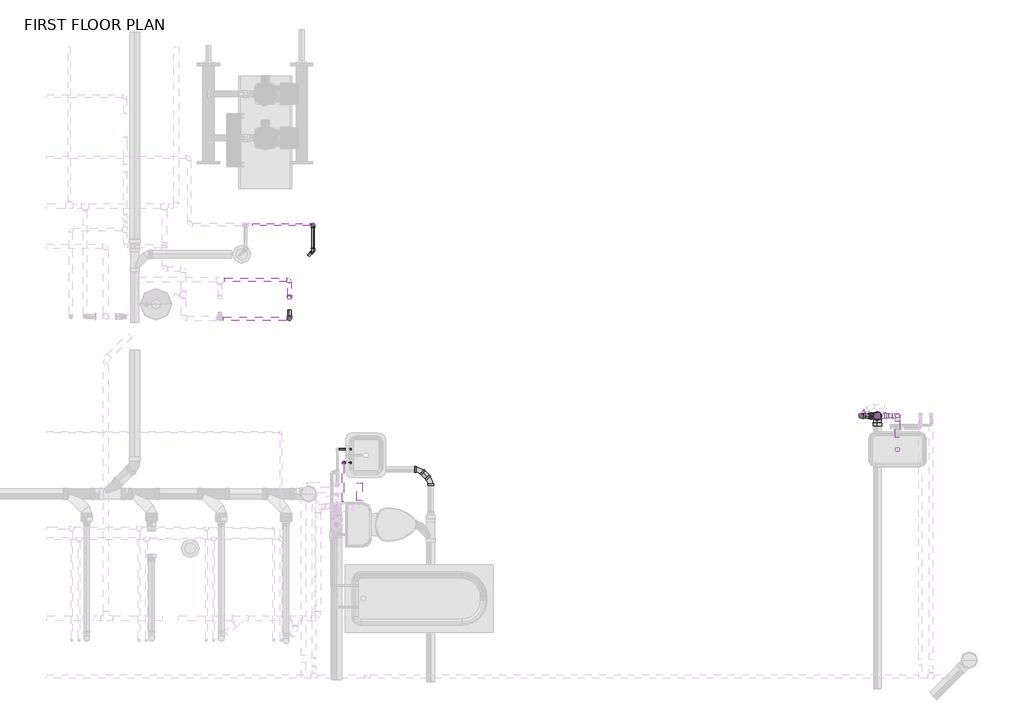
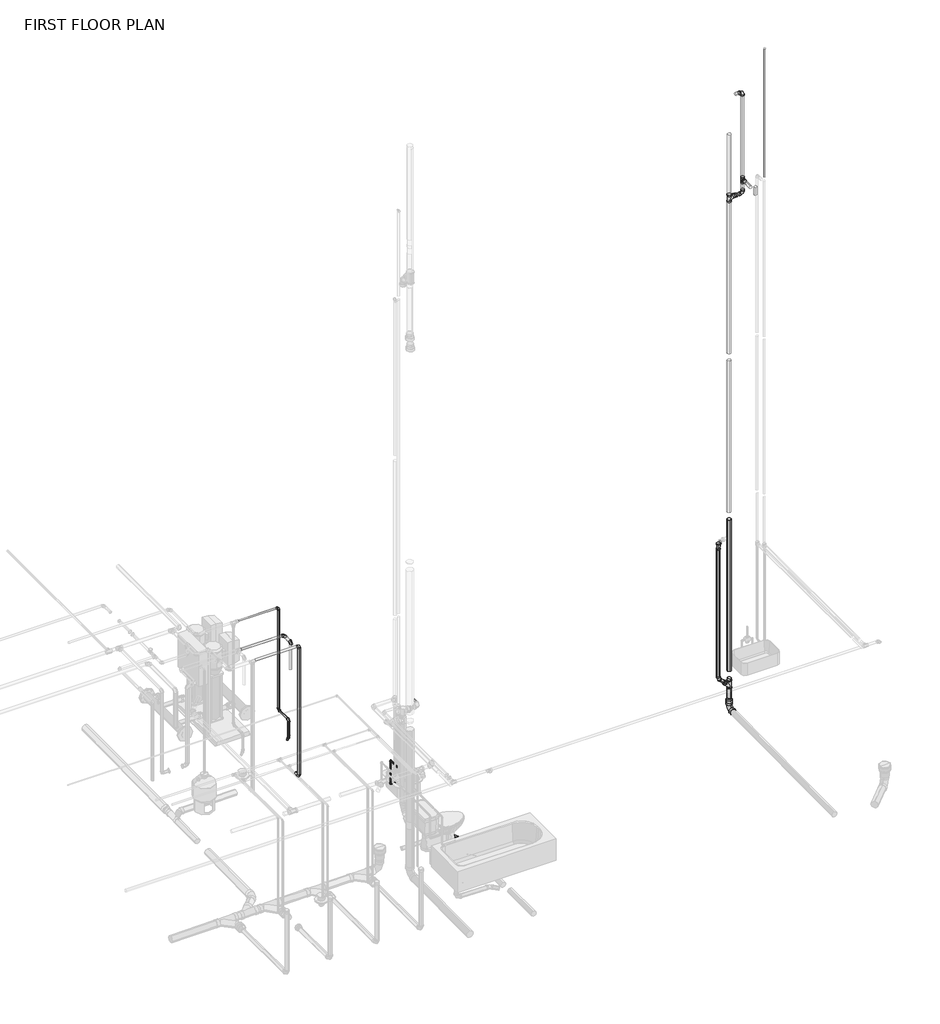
# One storey, part 28 of 29: 33 pipe segments, 23 pipe fittings.
"""IFC4 building model written with IfcOpenShell, lengths in millimetres."""

from ifc_helpers import new_model, si_unit, point, frame, frame_2d, origin, place, context, project, spatial, circle_curve, trimmed, segment, composite_curve, outline, extrude, transform, mapped, element, save
from components import bend_pvc_sch_40_dwv_standard_2a70e4cc, bend_pvc_sch_40_dwv_standard_738aab8b, bend_pvc_sch_40_dwv_standard_0fc7ae8a, bend_pvc_sch_40_dwv_standard_cc806abd, bend_pvc_sch_40_dwv_standard_9d8d5a04, elbow_threaded_mi_class_150_standard_46a92b09, ges_wye_45_deg_threaded_mi_class_150_cast_iron_sanitary_d237d51e, pipe_elbow_copper_k_ef41bb3a, pipe_elbow_copper_k_557be1fc, pipe_elbow_copper_k_aad62f2d, reducer_pvc_sch_40_dwv_standard_f288b410, reducer_pvc_sch_40_dwv_standard_44865e00, reducer_pvc_sch_40_dwv_standard_88dc3458, tee_sanitary_pvc_sch_40_dwv_standard_ad422280, tee_sanitary_pvc_sch_40_dwv_standard_7b7ecc20, tee_sanitary_pvc_sch_40_dwv_standard_be04015c

model = new_model("IFC4")

# Units and contexts
model_context = context("Model", 3, world=origin())
ifc_project = project(units=[si_unit("LENGTHUNIT", "METRE", prefix="MILLI")], contexts=[model_context])

# Site, building, storey
site = spatial("IfcSite", under=ifc_project)
building = spatial("IfcBuilding", under=site)
storey = spatial("IfcBuildingStorey", under=building, Name="FIRST FLOOR PLAN", Elevation=0.0)

# Pipe fittings
placement = place(None, origin())
bend_pvc_sch_40_dwv_standard_shape = bend_pvc_sch_40_dwv_standard_2a70e4cc(model_context)
element("IfcPipeFitting", 1, ObjectType="Bend - PVC - Sch 40 - DWV : Standard", at=placement, inside=storey, context=model_context, shape_type="MappedRepresentation", body=[
    mapped(bend_pvc_sch_40_dwv_standard_shape, transform((23062.4937673, 8911.2635001, -285.4857052), x_axis=(0.0, 0.0, -1.0), y_axis=(0.0, -1.0, 0.0), z_axis=(-1.0, 0.0, 0.0))),
])
bend_pvc_sch_40_dwv_standard_2_shape = bend_pvc_sch_40_dwv_standard_738aab8b(model_context)
element("IfcPipeFitting", 2, ObjectType="Bend - PVC - Sch 40 - DWV : Standard", at=placement, inside=storey, context=model_context, shape_type="MappedRepresentation", body=[
    mapped(bend_pvc_sch_40_dwv_standard_2_shape, transform((23291.1209875, 8911.9290686, 8870.855157), x_axis=(0.0, 0.0, -1.0), y_axis=(-1.0, 0.0, 0.0), z_axis=(0.0, 1.0, 0.0))),
])
element("IfcPipeFitting", 3, ObjectType="Bend - PVC - Sch 40 - DWV : Standard", at=placement, inside=storey, context=model_context, shape_type="MappedRepresentation", body=[
    mapped(bend_pvc_sch_40_dwv_standard_2_shape, transform((23291.1209875, 8911.9290686, 10682.6112003), x_axis=(0.0, 0.0, 1.0), y_axis=(-0.9999400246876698, -0.010952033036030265, 0.0), z_axis=(0.010952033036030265, -0.9999400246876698, 0.0))),
])
bend_pvc_sch_40_dwv_standard_3_shape = bend_pvc_sch_40_dwv_standard_0fc7ae8a(model_context)
element("IfcPipeFitting", 4, ObjectType="Bend - PVC - Sch 40 - DWV : Standard", at=placement, inside=storey, context=model_context, shape_type="MappedRepresentation", body=[
    mapped(bend_pvc_sch_40_dwv_standard_3_shape, transform((22877.6637012, 8912.1079616, 306.9969307), x_axis=(0.0, 0.0, -1.0), y_axis=(0.9999896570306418, -0.004548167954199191, 0.0), z_axis=(-0.004548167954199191, -0.9999896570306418, 0.0))),
])
bend_pvc_sch_40_dwv_standard_4_shape = bend_pvc_sch_40_dwv_standard_cc806abd(model_context)
element("IfcPipeFitting", 5, ObjectType="Bend - PVC - Sch 40 - DWV : Standard", at=placement, inside=storey, context=model_context, shape_type="MappedRepresentation", body=[
    mapped(bend_pvc_sch_40_dwv_standard_4_shape, transform((17876.7857687, 8305.5591934, -375.7177711), x_axis=(-0.7070684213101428, 0.7070684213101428, 0.010416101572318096), y_axis=(-0.7070681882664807, -0.7071320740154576, 0.004336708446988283), z_axis=(0.01043190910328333, -0.0042985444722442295, 0.99993634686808))),
])
bend_pvc_sch_40_dwv_standard_5_shape = bend_pvc_sch_40_dwv_standard_9d8d5a04(model_context)
element("IfcPipeFitting", 6, ObjectType="Bend - PVC - Sch 40 - DWV : Standard", at=placement, inside=storey, context=model_context, shape_type="MappedRepresentation", body=[
    mapped(bend_pvc_sch_40_dwv_standard_5_shape, transform((18002.873524, 8179.4714381, -377.5752192), x_axis=(0.0, 0.9999457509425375, 0.010416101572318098), y_axis=(-0.9999906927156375, -4.493975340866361e-05, 0.004314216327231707), z_axis=(0.004314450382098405, -0.010416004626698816, 0.9999364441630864))),
])
elbow_threaded_mi_class_150_standard_shape = elbow_threaded_mi_class_150_standard_46a92b09(model_context)
element("IfcPipeFitting", 7, ObjectType="Elbow - Threaded - MI - Class 150 : Standard", at=placement, inside=storey, context=model_context, shape_type="MappedRepresentation", body=[
    mapped(elbow_threaded_mi_class_150_standard_shape, transform((16670.1061918, 11079.5921575, 2438.4), x_axis=(1.0, 0.0, 0.0), y_axis=(0.0, 0.0, -1.0), z_axis=(0.0, 1.0, 0.0))),
])
element("IfcPipeFitting", 8, ObjectType="Elbow - Threaded - MI - Class 150 : Standard", at=placement, inside=storey, context=model_context, shape_type="MappedRepresentation", body=[
    mapped(elbow_threaded_mi_class_150_standard_shape, transform((16670.1061918, 11079.5921575, 609.6), x_axis=(0.0, 0.0, -1.0), y_axis=(0.0, -1.0, 0.0), z_axis=(-1.0, 0.0, 0.0))),
])
element("IfcPipeFitting", 9, ObjectType="Elbow - Threaded - MI - Class 150 : Standard", at=placement, inside=storey, context=model_context, shape_type="MappedRepresentation", body=[
    mapped(elbow_threaded_mi_class_150_standard_shape, transform((16670.1061918, 10781.1421575, 609.6), x_axis=(0.0, -1.0, 0.0), y_axis=(0.0, 0.0, -1.0), z_axis=(1.0, 0.0, 0.0))),
])
element("IfcPipeFitting", 10, ObjectType="Elbow - Threaded - MI - Class 150 : Standard", at=placement, inside=storey, context=model_context, shape_type="MappedRepresentation", body=[
    mapped(elbow_threaded_mi_class_150_standard_shape, transform((16670.1061918, 10781.1421575, 304.8), x_axis=(0.0, 0.0, -1.0), y_axis=(-0.7071067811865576, -0.7071067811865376, 0.0), z_axis=(-0.7071067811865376, 0.7071067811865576, 0.0))),
])
ges_wye_45_deg_threaded_mi_class_150_cast_iron_sanitary_shape = ges_wye_45_deg_threaded_mi_class_150_cast_iron_sanitary_d237d51e(model_context)
element("IfcPipeFitting", 11, ObjectType="GES Wye 45 Deg - Threaded - MI - Class 150 : Cast Iron- Sanitary", at=placement, inside=storey, context=model_context, shape_type="MappedRepresentation", body=[
    mapped(ges_wye_45_deg_threaded_mi_class_150_cast_iron_sanitary_shape, transform((23062.5209875, 8911.2671909, 122.1428758), x_axis=(0.0, 0.0, 1.0), y_axis=(0.9999896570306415, -0.004548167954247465, 0.0), z_axis=(0.004548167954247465, 0.9999896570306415, 0.0))),
])
pipe_elbow_copper_k_shape = pipe_elbow_copper_k_ef41bb3a(model_context)
element("IfcPipeFitting", 12, ObjectType="Pipe Elbow : Copper- K", at=placement, inside=storey, context=model_context, shape_type="MappedRepresentation", body=[
    mapped(pipe_elbow_copper_k_shape, transform((16402.2481736, 10252.0984616, 2414.7888358), x_axis=(0.0, 0.0, 1.0), y_axis=(0.0, 1.0, 0.0), z_axis=(-1.0, 0.0, 0.0))),
])
pipe_elbow_copper_k_2_shape = pipe_elbow_copper_k_557be1fc(model_context)
element("IfcPipeFitting", 13, ObjectType="Pipe Elbow : Copper- K", at=placement, inside=storey, context=model_context, shape_type="MappedRepresentation", body=[
    mapped(pipe_elbow_copper_k_2_shape, transform((16402.2481736, 10014.0854758, 160.02), x_axis=(0.0, 0.0, -1.0), y_axis=(0.0, 1.0, 0.0), z_axis=(1.0, 0.0, 0.0))),
])
element("IfcPipeFitting", 14, ObjectType="Pipe Elbow : Copper- K", at=placement, inside=storey, context=model_context, shape_type="MappedRepresentation", body=[
    mapped(pipe_elbow_copper_k_2_shape, transform((16402.2481736, 10014.086218, 2490.7000626), x_axis=(0.0, 0.0, 1.0), y_axis=(-1.0, 0.0, 0.0), z_axis=(0.0, -1.0, 0.0))),
])
element("IfcPipeFitting", 15, ObjectType="Pipe Elbow : Copper- K", at=placement, inside=storey, context=model_context, shape_type="MappedRepresentation", body=[
    mapped(pipe_elbow_copper_k_2_shape, transform((16402.2481736, 10455.3394457, 2413.0), x_axis=(0.0, 0.9999998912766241, 0.0004663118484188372), y_axis=(-1.0, 0.0, 0.0), z_axis=(0.0, -0.0004663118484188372, 0.9999998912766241))),
])
pipe_elbow_copper_k_3_shape = pipe_elbow_copper_k_aad62f2d(model_context)
element("IfcPipeFitting", 16, ObjectType="Pipe Elbow : Copper- K", at=placement, inside=storey, context=model_context, shape_type="MappedRepresentation", body=[
    mapped(pipe_elbow_copper_k_3_shape, transform((17010.9709875, 8383.3740436, 792.4601563), x_axis=(-1.0, 0.0, 0.0), y_axis=(0.0, 0.0, 1.0), z_axis=(0.0, 1.0, 0.0))),
])
element("IfcPipeFitting", 17, ObjectType="Pipe Elbow : Copper- K", at=placement, inside=storey, context=model_context, shape_type="MappedRepresentation", body=[
    mapped(pipe_elbow_copper_k_3_shape, transform((17010.9709875, 8383.3740436, 1219.2), x_axis=(0.0, 0.0, 1.0), y_axis=(0.0, -1.0, 0.0), z_axis=(1.0, 0.0, 0.0))),
])
reducer_pvc_sch_40_dwv_standard_shape = reducer_pvc_sch_40_dwv_standard_f288b410(model_context)
element("IfcPipeFitting", 18, ObjectType="Reducer - PVC - Sch 40 - DWV : Standard", at=placement, inside=storey, context=model_context, shape_type="MappedRepresentation", body=[
    mapped(reducer_pvc_sch_40_dwv_standard_shape, transform((22990.6833827, 8911.5939238, 193.9792248), x_axis=(-0.7071093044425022, 0.0032160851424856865, 0.7070969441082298), y_axis=(-0.004548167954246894, -0.9999896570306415, 0.0), z_axis=(0.7070896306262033, -0.003215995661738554, 0.7071166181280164))),
])
reducer_pvc_sch_40_dwv_standard_2_shape = reducer_pvc_sch_40_dwv_standard_44865e00(model_context)
element("IfcPipeFitting", 19, ObjectType="Reducer - PVC - Sch 40 - DWV : Standard", at=placement, inside=storey, context=model_context, shape_type="MappedRepresentation", body=[
    mapped(reducer_pvc_sch_40_dwv_standard_2_shape, transform((23062.4937673, 8911.2635001, -90.2105052), x_axis=(0.0, 0.0, -1.0), y_axis=(-0.004548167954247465, -0.9999896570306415, 0.0), z_axis=(-0.9999896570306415, 0.004548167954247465, 0.0))),
])
reducer_pvc_sch_40_dwv_standard_3_shape = reducer_pvc_sch_40_dwv_standard_88dc3458(model_context)
element("IfcPipeFitting", 20, ObjectType="Reducer - PVC - Sch 40 - DWV : Standard", at=placement, inside=storey, context=model_context, shape_type="MappedRepresentation", body=[
    mapped(reducer_pvc_sch_40_dwv_standard_3_shape, transform((23140.3099395, 8912.5900872, 8870.855157), x_axis=(0.999855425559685, 0.017003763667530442, 0.0), y_axis=(-0.017003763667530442, 0.999855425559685, 0.0), z_axis=(0.0, 0.0, 1.0))),
])
tee_sanitary_pvc_sch_40_dwv_standard_shape = tee_sanitary_pvc_sch_40_dwv_standard_ad422280(model_context)
element("IfcPipeFitting", 21, ObjectType="Tee Sanitary - PVC - Sch 40 - DWV : Standard", at=placement, inside=storey, context=model_context, shape_type="MappedRepresentation", body=[
    mapped(tee_sanitary_pvc_sch_40_dwv_standard_shape, transform((23291.1209875, 8911.9290686, 9112.4170389), x_axis=(0.0, 0.0, 1.0), y_axis=(0.0, 1.0, 0.0), z_axis=(-1.0, 0.0, 0.0))),
])
tee_sanitary_pvc_sch_40_dwv_standard_2_shape = tee_sanitary_pvc_sch_40_dwv_standard_7b7ecc20(model_context)
element("IfcPipeFitting", 22, ObjectType="Tee Sanitary - PVC - Sch 40 - DWV : Standard", at=placement, inside=storey, context=model_context, shape_type="MappedRepresentation", body=[
    mapped(tee_sanitary_pvc_sch_40_dwv_standard_2_shape, transform((23062.5209875, 8911.2671909, 8870.855157), x_axis=(0.0, 0.0, 1.0), y_axis=(-0.999855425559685, -0.017003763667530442, 0.0), z_axis=(0.017003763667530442, -0.999855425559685, 0.0))),
])
tee_sanitary_pvc_sch_40_dwv_standard_3_shape = tee_sanitary_pvc_sch_40_dwv_standard_be04015c(model_context)
element("IfcPipeFitting", 23, ObjectType="Tee Sanitary - PVC - Sch 40 - DWV : Standard", at=placement, inside=storey, context=model_context, shape_type="MappedRepresentation", body=[
    mapped(tee_sanitary_pvc_sch_40_dwv_standard_3_shape, transform((22877.6637012, 8912.1079616, 2687.3998234), x_axis=(0.0, 0.0, 1.0), y_axis=(-0.7098586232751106, -0.7043441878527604, 0.0), z_axis=(0.7043441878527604, -0.7098586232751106, 0.0))),
])

# Pipe segments
element("IfcPipeSegment", 24, ObjectType="Black Iron - GAS", at=placement, inside=storey, context=model_context, shape_type="SweptSolid", body=[
    extrude(outline(composite_curve([segment(trimmed(circle_curve(frame_2d((11079.5921575, 2438.4)), 13.335), [point((11066.2571575, 2438.4))], [point((11079.5921575, 2451.735))], False, "CARTESIAN"), True, "CONTINUOUS"), segment(trimmed(circle_curve(frame_2d((11079.5921575, 2438.4)), 13.335), [point((11079.5921575, 2451.735))], [point((11092.9271575, 2438.4))], False, "CARTESIAN"), True, "CONTINUOUS"), segment(trimmed(circle_curve(frame_2d((11079.5921575, 2438.4)), 13.335), [point((11092.9271575, 2438.4))], [point((11079.5921575, 2425.065))], False, "CARTESIAN"), True, "CONTINUOUS"), segment(trimmed(circle_curve(frame_2d((11079.5921575, 2438.4)), 13.335), [point((11079.5921575, 2425.065))], [point((11066.2571575, 2438.4))], False, "CARTESIAN"), True, "CONTINUOUS")], self_intersect=False)), frame((15985.1804028, 0.0, 0.0), z_axis=(1.0, 0.0, 0.0), x_axis=(0.0, 1.0, 0.0)), (0.0, 0.0, 1.0), 651.625789),
])
element("IfcPipeSegment", 25, ObjectType="Black Iron - GAS", at=placement, inside=storey, context=model_context, shape_type="SweptSolid", body=[
    extrude(outline(composite_curve([segment(trimmed(circle_curve(frame_2d((609.6, 16670.1061918)), 13.335), [point((609.6, 16656.7711918))], [point((596.265, 16670.1061918))], False, "CARTESIAN"), True, "CONTINUOUS"), segment(trimmed(circle_curve(frame_2d((609.6, 16670.1061918)), 13.335), [point((596.265, 16670.1061918))], [point((609.6, 16683.4411918))], False, "CARTESIAN"), True, "CONTINUOUS"), segment(trimmed(circle_curve(frame_2d((609.6, 16670.1061918)), 13.335), [point((609.6, 16683.4411918))], [point((622.935, 16670.1061918))], False, "CARTESIAN"), True, "CONTINUOUS"), segment(trimmed(circle_curve(frame_2d((609.6, 16670.1061918)), 13.335), [point((622.935, 16670.1061918))], [point((609.6, 16656.7711918))], False, "CARTESIAN"), True, "CONTINUOUS")], self_intersect=False)), frame((0.0, 10814.4421575, 0.0), z_axis=(0.0, 1.0, 0.0), x_axis=(0.0, 0.0, 1.0)), (0.0, 0.0, 1.0), 231.85),
])
element("IfcPipeSegment", 26, ObjectType="Black Iron - GAS", at=placement, inside=storey, context=model_context, shape_type="SweptSolid", body=[
    extrude(outline(composite_curve([segment(trimmed(circle_curve(frame_2d((16670.1061918, 11079.5921575)), 13.335), [point((16683.4411918, 11079.5921575))], [point((16670.1061918, 11066.2571575))], False, "CARTESIAN"), True, "CONTINUOUS"), segment(trimmed(circle_curve(frame_2d((16670.1061918, 11079.5921575)), 13.335), [point((16670.1061918, 11066.2571575))], [point((16656.7711918, 11079.5921575))], False, "CARTESIAN"), True, "CONTINUOUS"), segment(trimmed(circle_curve(frame_2d((16670.1061918, 11079.5921575)), 13.335), [point((16656.7711918, 11079.5921575))], [point((16670.1061918, 11092.9271575))], False, "CARTESIAN"), True, "CONTINUOUS"), segment(trimmed(circle_curve(frame_2d((16670.1061918, 11079.5921575)), 13.335), [point((16670.1061918, 11092.9271575))], [point((16683.4411918, 11079.5921575))], False, "CARTESIAN"), True, "CONTINUOUS")], self_intersect=False)), frame((0.0, 0.0, 642.9), z_axis=(0.0, 0.0, 1.0), x_axis=(1.0, 0.0, 0.0)), (0.0, 0.0, 1.0), 1762.2),
])
element("IfcPipeSegment", 27, ObjectType="Black Iron - GAS", at=placement, inside=storey, context=model_context, shape_type="SweptSolid", body=[
    extrude(outline(composite_curve([segment(trimmed(circle_curve(frame_2d((0.0, -13.335)), 13.335), [point((-13.335, -13.335))], [point((0.0, 0.0))], False, "CARTESIAN"), True, "CONTINUOUS"), segment(trimmed(circle_curve(frame_2d((0.0, -13.335)), 13.335), [point((0.0, 0.0))], [point((13.335, -13.335))], False, "CARTESIAN"), True, "CONTINUOUS"), segment(trimmed(circle_curve(frame_2d((0.0, -13.335)), 13.335), [point((13.335, -13.335))], [point((0.0, -26.67))], False, "CARTESIAN"), True, "CONTINUOUS"), segment(trimmed(circle_curve(frame_2d((0.0, -13.335)), 13.335), [point((0.0, -26.67))], [point((-13.335, -13.335))], False, "CARTESIAN"), True, "CONTINUOUS")], self_intersect=False)), frame((16616.2246551, 10727.2606208, 291.465), z_axis=(0.7071067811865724, 0.7071067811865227, 0.0), x_axis=(0.7071067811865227, -0.7071067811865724, 0.0)), (0.0, 0.0, 1.0), 42.9),
])
element("IfcPipeSegment", 28, ObjectType="Black Iron - GAS", at=placement, inside=storey, context=model_context, shape_type="SweptSolid", body=[
    extrude(outline(composite_curve([segment(trimmed(circle_curve(frame_2d((16670.1061918, 10781.1421575)), 13.335), [point((16683.4411918, 10781.1421575))], [point((16670.1061918, 10767.8071575))], False, "CARTESIAN"), True, "CONTINUOUS"), segment(trimmed(circle_curve(frame_2d((16670.1061918, 10781.1421575)), 13.335), [point((16670.1061918, 10767.8071575))], [point((16656.7711918, 10781.1421575))], False, "CARTESIAN"), True, "CONTINUOUS"), segment(trimmed(circle_curve(frame_2d((16670.1061918, 10781.1421575)), 13.335), [point((16656.7711918, 10781.1421575))], [point((16670.1061918, 10794.4771575))], False, "CARTESIAN"), True, "CONTINUOUS"), segment(trimmed(circle_curve(frame_2d((16670.1061918, 10781.1421575)), 13.335), [point((16670.1061918, 10794.4771575))], [point((16683.4411918, 10781.1421575))], False, "CARTESIAN"), True, "CONTINUOUS")], self_intersect=False)), frame((0.0, 0.0, 338.1), z_axis=(0.0, 0.0, 1.0), x_axis=(1.0, 0.0, 0.0)), (0.0, 0.0, 1.0), 238.2),
])
element("IfcPipeSegment", 29, ObjectType="Copper", at=placement, inside=storey, context=model_context, shape_type="SweptSolid", body=[
    extrude(outline(composite_curve([segment(trimmed(circle_curve(frame_2d((160.02, 16402.2481736)), 20.6375), [point((160.02, 16422.8856736))], [point((180.6575, 16402.2481736))], False, "CARTESIAN"), True, "CONTINUOUS"), segment(trimmed(circle_curve(frame_2d((160.02, 16402.2481736)), 20.6375), [point((180.6575, 16402.2481736))], [point((160.02, 16381.6106736))], False, "CARTESIAN"), True, "CONTINUOUS"), segment(trimmed(circle_curve(frame_2d((160.02, 16402.2481736)), 20.6375), [point((160.02, 16381.6106736))], [point((139.3825, 16402.2481736))], False, "CARTESIAN"), True, "CONTINUOUS"), segment(trimmed(circle_curve(frame_2d((160.02, 16402.2481736)), 20.6375), [point((139.3825, 16402.2481736))], [point((160.02, 16422.8856736))], False, "CARTESIAN"), True, "CONTINUOUS")], self_intersect=False)), frame((0.0, 10044.2479758, 0.0), z_axis=(0.0, 1.0, 0.0), x_axis=(0.0, 0.0, 1.0)), (0.0, 0.0, 1.0), 65.0875),
])
element("IfcPipeSegment", 30, ObjectType="Copper", at=placement, inside=storey, context=model_context, shape_type="SweptSolid", body=[
    extrude(outline(composite_curve([segment(trimmed(circle_curve(frame_2d((0.0, 20.6375)), 20.6375), [point((-20.6375, 20.6375))], [point((0.0, 41.275))], False, "CARTESIAN"), True, "CONTINUOUS"), segment(trimmed(circle_curve(frame_2d((0.0, 20.6375)), 20.6375), [point((0.0, 41.275))], [point((20.6375, 20.6375))], False, "CARTESIAN"), True, "CONTINUOUS"), segment(trimmed(circle_curve(frame_2d((0.0, 20.6375)), 20.6375), [point((20.6375, 20.6375))], [point((0.0, 0.0))], False, "CARTESIAN"), True, "CONTINUOUS"), segment(trimmed(circle_curve(frame_2d((0.0, 20.6375)), 20.6375), [point((0.0, 0.0))], [point((-20.6375, 20.6375))], False, "CARTESIAN"), True, "CONTINUOUS")], self_intersect=False)), frame((16402.2481736, 9993.4479758, 190.1825067), z_axis=(0.0, 3.2691951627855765e-07, 0.9999999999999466), x_axis=(1.0, 0.0, 0.0)), (0.0, 0.0, 1.0), 2270.3550626),
])
element("IfcPipeSegment", 31, ObjectType="Copper", at=placement, inside=storey, context=model_context, shape_type="SweptSolid", body=[
    extrude(outline(composite_curve([segment(trimmed(circle_curve(frame_2d((0.0, 20.6375)), 20.6375), [point((-20.6375, 20.6375))], [point((0.0, 41.275))], False, "CARTESIAN"), True, "CONTINUOUS"), segment(trimmed(circle_curve(frame_2d((0.0, 20.6375)), 20.6375), [point((0.0, 41.275))], [point((20.6375, 20.6375))], False, "CARTESIAN"), True, "CONTINUOUS"), segment(trimmed(circle_curve(frame_2d((0.0, 20.6375)), 20.6375), [point((20.6375, 20.6375))], [point((0.0, 0.0))], False, "CARTESIAN"), True, "CONTINUOUS"), segment(trimmed(circle_curve(frame_2d((0.0, 20.6375)), 20.6375), [point((0.0, 0.0))], [point((-20.6375, 20.6375))], False, "CARTESIAN"), True, "CONTINUOUS")], self_intersect=False)), frame((16402.2481736, 10231.4690916, 1930.3996304), z_axis=(0.0, -1.791099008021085e-05, 0.9999999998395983), x_axis=(1.0, 0.0, 0.0)), (0.0, 0.0, 1.0), 453.9105068),
])
element("IfcPipeSegment", 32, ObjectType="Copper", at=placement, inside=storey, context=model_context, shape_type="SweptSolid", body=[
    extrude(outline(composite_curve([segment(trimmed(circle_curve(frame_2d((0.0, -20.6375)), 20.6375), [point((20.6375, -20.6375))], [point((0.0, -41.275))], False, "CARTESIAN"), True, "CONTINUOUS"), segment(trimmed(circle_curve(frame_2d((0.0, -20.6375)), 20.6375), [point((0.0, -41.275))], [point((-20.6375, -20.6375))], False, "CARTESIAN"), True, "CONTINUOUS"), segment(trimmed(circle_curve(frame_2d((0.0, -20.6375)), 20.6375), [point((-20.6375, -20.6375))], [point((0.0, 0.0))], False, "CARTESIAN"), True, "CONTINUOUS"), segment(trimmed(circle_curve(frame_2d((0.0, -20.6375)), 20.6375), [point((0.0, 0.0))], [point((20.6375, -20.6375))], False, "CARTESIAN"), True, "CONTINUOUS")], self_intersect=False)), frame((16402.2481736, 10425.3919113, 2433.6223153), z_axis=(0.0, -0.9999457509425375, 0.01041610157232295), x_axis=(1.0, 0.0, 0.0)), (0.0, 0.0, 1.0), 142.6095481),
])
element("IfcPipeSegment", 33, ObjectType="Copper", at=placement, inside=storey, context=model_context, shape_type="SweptSolid", body=[
    extrude(outline(composite_curve([segment(trimmed(circle_curve(frame_2d((10014.086218, 2490.7000626)), 20.6375), [point((10034.723718, 2490.7000626))], [point((10014.086218, 2470.0625626))], False, "CARTESIAN"), True, "CONTINUOUS"), segment(trimmed(circle_curve(frame_2d((10014.086218, 2490.7000626)), 20.6375), [point((10014.086218, 2470.0625626))], [point((9993.448718, 2490.7000626))], False, "CARTESIAN"), True, "CONTINUOUS"), segment(trimmed(circle_curve(frame_2d((10014.086218, 2490.7000626)), 20.6375), [point((9993.448718, 2490.7000626))], [point((10014.086218, 2511.3375626))], False, "CARTESIAN"), True, "CONTINUOUS"), segment(trimmed(circle_curve(frame_2d((10014.086218, 2490.7000626)), 20.6375), [point((10014.086218, 2511.3375626))], [point((10034.723718, 2490.7000626))], False, "CARTESIAN"), True, "CONTINUOUS")], self_intersect=False)), frame((15651.3606736, 0.0, 0.0), z_axis=(1.0, 0.0, 0.0), x_axis=(0.0, 1.0, 0.0)), (0.0, 0.0, 1.0), 720.725),
])
element("IfcPipeSegment", 34, ObjectType="Copper", at=placement, inside=storey, context=model_context, shape_type="SweptSolid", body=[
    extrude(outline(composite_curve([segment(trimmed(circle_curve(frame_2d((10455.3394457, 2413.0)), 20.6375), [point((10475.9769457, 2413.0))], [point((10455.3394457, 2392.3625))], False, "CARTESIAN"), True, "CONTINUOUS"), segment(trimmed(circle_curve(frame_2d((10455.3394457, 2413.0)), 20.6375), [point((10455.3394457, 2392.3625))], [point((10434.7019457, 2413.0))], False, "CARTESIAN"), True, "CONTINUOUS"), segment(trimmed(circle_curve(frame_2d((10455.3394457, 2413.0)), 20.6375), [point((10434.7019457, 2413.0))], [point((10455.3394457, 2433.6375))], False, "CARTESIAN"), True, "CONTINUOUS"), segment(trimmed(circle_curve(frame_2d((10455.3394457, 2413.0)), 20.6375), [point((10455.3394457, 2433.6375))], [point((10475.9769457, 2413.0))], False, "CARTESIAN"), True, "CONTINUOUS")], self_intersect=False)), frame((15671.2044236, 0.0, 0.0), z_axis=(1.0, 0.0, 0.0), x_axis=(0.0, 1.0, 0.0)), (0.0, 0.0, 1.0), 700.88125),
])
element("IfcPipeSegment", 35, ObjectType="Copper", at=placement, inside=storey, context=model_context, shape_type="SweptSolid", body=[
    extrude(outline(composite_curve([segment(trimmed(circle_curve(frame_2d((8536.03262, 762.0)), 7.9375), [point((8528.09512, 762.0))], [point((8536.03262, 769.9375))], False, "CARTESIAN"), True, "CONTINUOUS"), segment(trimmed(circle_curve(frame_2d((8536.03262, 762.0)), 7.9375), [point((8536.03262, 769.9375))], [point((8543.97012, 762.0))], False, "CARTESIAN"), True, "CONTINUOUS"), segment(trimmed(circle_curve(frame_2d((8536.03262, 762.0)), 7.9375), [point((8543.97012, 762.0))], [point((8536.03262, 754.0625))], False, "CARTESIAN"), True, "CONTINUOUS"), segment(trimmed(circle_curve(frame_2d((8536.03262, 762.0)), 7.9375), [point((8536.03262, 754.0625))], [point((8528.09512, 762.0))], False, "CARTESIAN"), True, "CONTINUOUS")], self_intersect=False)), frame((16963.3459875, 0.0, 0.0), z_axis=(1.0, 0.0, 0.0), x_axis=(0.0, 1.0, 0.0)), (0.0, 0.0, 1.0), 141.2875),
])
element("IfcPipeSegment", 36, ObjectType="Copper", at=placement, inside=storey, context=model_context, shape_type="SweptSolid", body=[
    extrude(outline(composite_curve([segment(trimmed(circle_curve(frame_2d((8383.3740436, 792.4601562)), 7.9375), [point((8375.4365436, 792.4601562))], [point((8383.3740436, 800.3976562))], False, "CARTESIAN"), True, "CONTINUOUS"), segment(trimmed(circle_curve(frame_2d((8383.3740436, 792.4601562)), 7.9375), [point((8383.3740436, 800.3976562))], [point((8391.3115436, 792.4601562))], False, "CARTESIAN"), True, "CONTINUOUS"), segment(trimmed(circle_curve(frame_2d((8383.3740436, 792.4601562)), 7.9375), [point((8391.3115436, 792.4601562))], [point((8383.3740436, 784.5226562))], False, "CARTESIAN"), True, "CONTINUOUS"), segment(trimmed(circle_curve(frame_2d((8383.3740436, 792.4601562)), 7.9375), [point((8383.3740436, 784.5226562))], [point((8375.4365436, 792.4601562))], False, "CARTESIAN"), True, "CONTINUOUS")], self_intersect=False)), frame((17028.4334875, 0.0, 0.0), z_axis=(1.0, 0.0, 0.0), x_axis=(0.0, 1.0, 0.0)), (0.0, 0.0, 1.0), 76.2),
])
element("IfcPipeSegment", 37, ObjectType="Copper", at=placement, inside=storey, context=model_context, shape_type="SweptSolid", body=[
    extrude(outline(composite_curve([segment(trimmed(circle_curve(frame_2d((1219.2, 17010.9709875)), 7.9375), [point((1219.2, 17003.0334875))], [point((1211.2625, 17010.9709875))], False, "CARTESIAN"), True, "CONTINUOUS"), segment(trimmed(circle_curve(frame_2d((1219.2, 17010.9709875)), 7.9375), [point((1211.2625, 17010.9709875))], [point((1219.2, 17018.9084875))], False, "CARTESIAN"), True, "CONTINUOUS"), segment(trimmed(circle_curve(frame_2d((1219.2, 17010.9709875)), 7.9375), [point((1219.2, 17018.9084875))], [point((1227.1375, 17010.9709875))], False, "CARTESIAN"), True, "CONTINUOUS"), segment(trimmed(circle_curve(frame_2d((1219.2, 17010.9709875)), 7.9375), [point((1227.1375, 17010.9709875))], [point((1219.2, 17003.0334875))], False, "CARTESIAN"), True, "CONTINUOUS")], self_intersect=False)), frame((0.0, 7936.7405809, 0.0), z_axis=(0.0, 1.0, 0.0), x_axis=(0.0, 0.0, 1.0)), (0.0, 0.0, 1.0), 429.1709627),
])
element("IfcPipeSegment", 38, ObjectType="Copper", at=placement, inside=storey, context=model_context, shape_type="SweptSolid", body=[
    extrude(outline(composite_curve([segment(trimmed(circle_curve(frame_2d((17010.9709875, 8383.3740436)), 7.9375), [point((17003.0334875, 8383.3740436))], [point((17010.9709875, 8391.3115436))], False, "CARTESIAN"), True, "CONTINUOUS"), segment(trimmed(circle_curve(frame_2d((17010.9709875, 8383.3740436)), 7.9375), [point((17010.9709875, 8391.3115436))], [point((17018.9084875, 8383.3740436))], False, "CARTESIAN"), True, "CONTINUOUS"), segment(trimmed(circle_curve(frame_2d((17010.9709875, 8383.3740436)), 7.9375), [point((17018.9084875, 8383.3740436))], [point((17010.9709875, 8375.4365436))], False, "CARTESIAN"), True, "CONTINUOUS"), segment(trimmed(circle_curve(frame_2d((17010.9709875, 8383.3740436)), 7.9375), [point((17010.9709875, 8375.4365436))], [point((17003.0334875, 8383.3740436))], False, "CARTESIAN"), True, "CONTINUOUS")], self_intersect=False)), frame((0.0, 0.0, 809.9226562), z_axis=(0.0, 0.0, 1.0), x_axis=(1.0, 0.0, 0.0)), (0.0, 0.0, 1.0), 391.8148438),
])
element("IfcPipeSegment", 39, ObjectType="Copper", at=placement, inside=storey, context=model_context, shape_type="SweptSolid", body=[
    extrude(outline(composite_curve([segment(trimmed(circle_curve(frame_2d((23669.3410297, 8927.8175381)), 11.1125), [point((23658.2285297, 8927.8175381))], [point((23669.3410297, 8938.9300381))], False, "CARTESIAN"), True, "CONTINUOUS"), segment(trimmed(circle_curve(frame_2d((23669.3410297, 8927.8175381)), 11.1125), [point((23669.3410297, 8938.9300381))], [point((23680.4535297, 8927.8175381))], False, "CARTESIAN"), True, "CONTINUOUS"), segment(trimmed(circle_curve(frame_2d((23669.3410297, 8927.8175381)), 11.1125), [point((23680.4535297, 8927.8175381))], [point((23669.3410297, 8916.7050381))], False, "CARTESIAN"), True, "CONTINUOUS"), segment(trimmed(circle_curve(frame_2d((23669.3410297, 8927.8175381)), 11.1125), [point((23669.3410297, 8916.7050381))], [point((23658.2285297, 8927.8175381))], False, "CARTESIAN"), True, "CONTINUOUS")], self_intersect=False)), frame((0.0, 0.0, 9013.3289063), z_axis=(0.0, 0.0, 1.0), x_axis=(1.0, 0.0, 0.0)), (0.0, 0.0, 1.0), 2292.0523437),
])
element("IfcPipeSegment", 40, ObjectType="PVC - SAN/STORM", at=placement, inside=storey, context=model_context, shape_type="SweptSolid", body=[
    extrude(outline(composite_curve([segment(trimmed(circle_curve(frame_2d((23062.5209875, 8911.2671909)), 30.1625), [point((23032.3584875, 8911.2671909))], [point((23062.5209875, 8941.4296909))], False, "CARTESIAN"), True, "CONTINUOUS"), segment(trimmed(circle_curve(frame_2d((23062.5209875, 8911.2671909)), 30.1625), [point((23062.5209875, 8941.4296909))], [point((23092.6834875, 8911.2671909))], False, "CARTESIAN"), True, "CONTINUOUS"), segment(trimmed(circle_curve(frame_2d((23062.5209875, 8911.2671909)), 30.1625), [point((23092.6834875, 8911.2671909))], [point((23062.5209875, 8881.1046909))], False, "CARTESIAN"), True, "CONTINUOUS"), segment(trimmed(circle_curve(frame_2d((23062.5209875, 8911.2671909)), 30.1625), [point((23062.5209875, 8881.1046909))], [point((23032.3584875, 8911.2671909))], False, "CARTESIAN"), True, "CONTINUOUS")], self_intersect=False)), frame((0.0, 0.0, 8924.830157), z_axis=(0.0, 0.0, 1.0), x_axis=(1.0, 0.0, 0.0)), (0.0, 0.0, 1.0), 1079.7618819),
])
element("IfcPipeSegment", 41, ObjectType="PVC - SAN/STORM", at=placement, inside=storey, context=model_context, shape_type="SweptSolid", body=[
    extrude(outline(composite_curve([segment(trimmed(circle_curve(frame_2d((9113.0617935, 23291.1209875)), 24.13), [point((9113.0617935, 23315.2509875))], [point((9137.1917935, 23291.1209875))], False, "CARTESIAN"), True, "CONTINUOUS"), segment(trimmed(circle_curve(frame_2d((9113.0617935, 23291.1209875)), 24.13), [point((9137.1917935, 23291.1209875))], [point((9113.0617935, 23266.9909875))], False, "CARTESIAN"), True, "CONTINUOUS"), segment(trimmed(circle_curve(frame_2d((9113.0617935, 23291.1209875)), 24.13), [point((9113.0617935, 23266.9909875))], [point((9088.9317935, 23291.1209875))], False, "CARTESIAN"), True, "CONTINUOUS"), segment(trimmed(circle_curve(frame_2d((9113.0617935, 23291.1209875)), 24.13), [point((9088.9317935, 23291.1209875))], [point((9113.0617935, 23315.2509875))], False, "CARTESIAN"), True, "CONTINUOUS")], self_intersect=False)), frame((0.0, 8665.4385881, 0.0), z_axis=(0.0, 1.0, 0.0), x_axis=(0.0, 0.0, 1.0)), (0.0, 0.0, 1.0), 184.5940385),
])
element("IfcPipeSegment", 42, ObjectType="PVC - SAN/STORM", at=placement, inside=storey, context=model_context, shape_type="SweptSolid", body=[
    extrude(outline(composite_curve([segment(trimmed(circle_curve(frame_2d((23291.1209875, 8530.5137881)), 24.13), [point((23266.9909875, 8530.5137881))], [point((23291.1209875, 8554.6437881))], False, "CARTESIAN"), True, "CONTINUOUS"), segment(trimmed(circle_curve(frame_2d((23291.1209875, 8530.5137881)), 24.13), [point((23291.1209875, 8554.6437881))], [point((23315.2509875, 8530.5137881))], False, "CARTESIAN"), True, "CONTINUOUS"), segment(trimmed(circle_curve(frame_2d((23291.1209875, 8530.5137881)), 24.13), [point((23315.2509875, 8530.5137881))], [point((23291.1209875, 8506.3837881))], False, "CARTESIAN"), True, "CONTINUOUS"), segment(trimmed(circle_curve(frame_2d((23291.1209875, 8530.5137881)), 24.13), [point((23291.1209875, 8506.3837881))], [point((23266.9909875, 8530.5137881))], False, "CARTESIAN"), True, "CONTINUOUS")], self_intersect=False)), frame((0.0, 0.0, 9068.5990935), z_axis=(0.0, 0.0, 1.0), x_axis=(1.0, 0.0, 0.0)), (0.0, 0.0, 1.0), 141.6019923),
])
element("IfcPipeSegment", 43, ObjectType="PVC - SAN/STORM", at=placement, inside=storey, context=model_context, shape_type="SweptSolid", body=[
    extrude(outline(composite_curve([segment(trimmed(circle_curve(frame_2d((23291.1209875, 8911.9290686)), 24.13), [point((23315.2509875, 8911.9290686))], [point((23291.1209875, 8887.7990686))], False, "CARTESIAN"), True, "CONTINUOUS"), segment(trimmed(circle_curve(frame_2d((23291.1209875, 8911.9290686)), 24.13), [point((23291.1209875, 8887.7990686))], [point((23266.9909875, 8911.9290686))], False, "CARTESIAN"), True, "CONTINUOUS"), segment(trimmed(circle_curve(frame_2d((23291.1209875, 8911.9290686)), 24.13), [point((23266.9909875, 8911.9290686))], [point((23291.1209875, 8936.0590686))], False, "CARTESIAN"), True, "CONTINUOUS"), segment(trimmed(circle_curve(frame_2d((23291.1209875, 8911.9290686)), 24.13), [point((23291.1209875, 8936.0590686))], [point((23315.2509875, 8911.9290686))], False, "CARTESIAN"), True, "CONTINUOUS")], self_intersect=False)), frame((0.0, 0.0, 8932.754957), z_axis=(0.0, 0.0, 1.0), x_axis=(1.0, 0.0, 0.0)), (0.0, 0.0, 1.0), 117.7622819),
])
element("IfcPipeSegment", 44, ObjectType="PVC - SAN/STORM", at=placement, inside=storey, context=model_context, shape_type="SweptSolid", body=[
    extrude(outline(composite_curve([segment(trimmed(circle_curve(frame_2d((23062.5209875, 8911.2671909)), 30.1625), [point((23032.3584875, 8911.2671909))], [point((23062.5209875, 8941.4296909))], False, "CARTESIAN"), True, "CONTINUOUS"), segment(trimmed(circle_curve(frame_2d((23062.5209875, 8911.2671909)), 30.1625), [point((23062.5209875, 8941.4296909))], [point((23092.6834875, 8911.2671909))], False, "CARTESIAN"), True, "CONTINUOUS"), segment(trimmed(circle_curve(frame_2d((23062.5209875, 8911.2671909)), 30.1625), [point((23092.6834875, 8911.2671909))], [point((23062.5209875, 8881.1046909))], False, "CARTESIAN"), True, "CONTINUOUS"), segment(trimmed(circle_curve(frame_2d((23062.5209875, 8911.2671909)), 30.1625), [point((23062.5209875, 8881.1046909))], [point((23032.3584875, 8911.2671909))], False, "CARTESIAN"), True, "CONTINUOUS")], self_intersect=False)), frame((0.0, 0.0, 223.7362282), z_axis=(0.0, 0.0, 1.0), x_axis=(1.0, 0.0, 0.0)), (0.0, 0.0, 1.0), 35.8253653),
])
element("IfcPipeSegment", 45, ObjectType="PVC - SAN/STORM", at=placement, inside=storey, context=model_context, shape_type="SweptSolid", body=[
    extrude(outline(composite_curve([segment(trimmed(circle_curve(frame_2d((0.0, 24.13)), 24.13), [point((-24.1286579, 24.3844918))], [point((0.2544918, 48.258658))], False, "CARTESIAN"), True, "CONTINUOUS"), segment(trimmed(circle_curve(frame_2d((0.0, 24.13)), 24.13), [point((0.2544918, 48.258658))], [point((24.128658, 23.8755083))], False, "CARTESIAN"), True, "CONTINUOUS"), segment(trimmed(circle_curve(frame_2d((0.0, 24.13)), 24.13), [point((24.128658, 23.8755083))], [point((-0.2544917, 0.0013421))], False, "CARTESIAN"), True, "CONTINUOUS"), segment(trimmed(circle_curve(frame_2d((0.0, 24.13)), 24.13), [point((-0.2544917, 0.0013421))], [point((-24.1286579, 24.3844918))], False, "CARTESIAN"), True, "CONTINUOUS")], self_intersect=False)), frame((22951.4067414, 8984.9196291, 2662.185244), z_axis=(-0.7098197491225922, -0.704305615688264, 0.010465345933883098), x_axis=(0.7043833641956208, -0.7097414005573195, 0.010546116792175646)), (0.0, 0.0, 1.0), 41.9900119),
])
element("IfcPipeSegment", 46, ObjectType="PVC - SAN/STORM", at=placement, inside=storey, context=model_context, shape_type="SweptSolid", body=[
    extrude(outline(composite_curve([segment(trimmed(circle_curve(frame_2d((22877.6637012, 8912.1079616)), 24.13), [point((22901.7937012, 8912.1079616))], [point((22877.6637012, 8887.9779616))], False, "CARTESIAN"), True, "CONTINUOUS"), segment(trimmed(circle_curve(frame_2d((22877.6637012, 8912.1079616)), 24.13), [point((22877.6637012, 8887.9779616))], [point((22853.5337012, 8912.1079616))], False, "CARTESIAN"), True, "CONTINUOUS"), segment(trimmed(circle_curve(frame_2d((22877.6637012, 8912.1079616)), 24.13), [point((22853.5337012, 8912.1079616))], [point((22877.6637012, 8936.2379616))], False, "CARTESIAN"), True, "CONTINUOUS"), segment(trimmed(circle_curve(frame_2d((22877.6637012, 8912.1079616)), 24.13), [point((22877.6637012, 8936.2379616))], [point((22901.7937012, 8912.1079616))], False, "CARTESIAN"), True, "CONTINUOUS")], self_intersect=False)), frame((0.0, 0.0, 349.8467307), z_axis=(0.0, 0.0, 1.0), x_axis=(1.0, 0.0, 0.0)), (0.0, 0.0, 1.0), 2275.6532927),
])
element("IfcPipeSegment", 47, ObjectType="PVC - SAN/STORM", at=placement, inside=storey, context=model_context, shape_type="SweptSolid", body=[
    extrude(outline(composite_curve([segment(trimmed(circle_curve(frame_2d((0.0, -24.13)), 24.13), [point((-0.1552067, -48.2595008))], [point((-24.1295009, -23.9747933))], False, "CARTESIAN"), True, "CONTINUOUS"), segment(trimmed(circle_curve(frame_2d((0.0, -24.13)), 24.13), [point((-24.1295009, -23.9747933))], [point((0.1552067, -0.0004992))], False, "CARTESIAN"), True, "CONTINUOUS"), segment(trimmed(circle_curve(frame_2d((0.0, -24.13)), 24.13), [point((0.1552067, -0.0004992))], [point((24.1295008, -24.2852067))], False, "CARTESIAN"), True, "CONTINUOUS"), segment(trimmed(circle_curve(frame_2d((0.0, -24.13)), 24.13), [point((24.1295008, -24.2852067))], [point((-0.1552067, -48.2595008))], False, "CARTESIAN"), True, "CONTINUOUS")], self_intersect=False)), frame((22955.3369685, 8935.8844373, 229.215272), z_axis=(-0.7071093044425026, 0.00321608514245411, 0.7070969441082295), x_axis=(0.7071042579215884, 0.003216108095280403, 0.7071019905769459)), (0.0, 0.0, 1.0), 66.9963961),
])
element("IfcPipeSegment", 48, ObjectType="PVC - SAN/STORM", at=placement, inside=storey, context=model_context, shape_type="SweptSolid", body=[
    extrude(outline(composite_curve([segment(trimmed(circle_curve(frame_2d((0.0, 30.1625)), 30.1625), [point((-30.1625001, 30.1624999))], [point((-1e-07, 60.325))], False, "CARTESIAN"), True, "CONTINUOUS"), segment(trimmed(circle_curve(frame_2d((0.0, 30.1625)), 30.1625), [point((-1e-07, 60.325))], [point((30.1625, 30.1625001))], False, "CARTESIAN"), True, "CONTINUOUS"), segment(trimmed(circle_curve(frame_2d((0.0, 30.1625)), 30.1625), [point((30.1625, 30.1625001))], [point((1e-07, 0.0))], False, "CARTESIAN"), True, "CONTINUOUS"), segment(trimmed(circle_curve(frame_2d((0.0, 30.1625)), 30.1625), [point((1e-07, 0.0))], [point((-30.1625001, 30.1624999))], False, "CARTESIAN"), True, "CONTINUOUS")], self_intersect=False)), frame((23062.4937673, 8881.1010001, -90.2098685), z_axis=(0.00015567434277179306, 2.1108368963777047e-05, 0.9999999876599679), x_axis=(0.9999999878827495, -3.286032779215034e-09, -0.00015567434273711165)), (0.0, 0.0, 1.0), 174.8533831),
])
element("IfcPipeSegment", 49, ObjectType="PVC - SAN/STORM", at=placement, inside=storey, context=model_context, shape_type="SweptSolid", body=[
    extrude(outline(composite_curve([segment(trimmed(circle_curve(frame_2d((23062.5209875, 8911.2671909)), 30.1625), [point((23032.3584875, 8911.2671909))], [point((23062.5209875, 8941.4296909))], False, "CARTESIAN"), True, "CONTINUOUS"), segment(trimmed(circle_curve(frame_2d((23062.5209875, 8911.2671909)), 30.1625), [point((23062.5209875, 8941.4296909))], [point((23092.6834875, 8911.2671909))], False, "CARTESIAN"), True, "CONTINUOUS"), segment(trimmed(circle_curve(frame_2d((23062.5209875, 8911.2671909)), 30.1625), [point((23092.6834875, 8911.2671909))], [point((23062.5209875, 8881.1046909))], False, "CARTESIAN"), True, "CONTINUOUS"), segment(trimmed(circle_curve(frame_2d((23062.5209875, 8911.2671909)), 30.1625), [point((23062.5209875, 8881.1046909))], [point((23032.3584875, 8911.2671909))], False, "CARTESIAN"), True, "CONTINUOUS")], self_intersect=False)), frame((0.0, 0.0, 391.3367935), z_axis=(0.0, 0.0, 1.0), x_axis=(1.0, 0.0, 0.0)), (0.0, 0.0, 1.0), 2713.0248),
])
element("IfcPipeSegment", 50, ObjectType="PVC - SAN/STORM", at=placement, inside=storey, context=model_context, shape_type="SweptSolid", body=[
    extrude(outline(composite_curve([segment(trimmed(circle_curve(frame_2d((23062.5209875, 8911.2671909)), 30.1625), [point((23032.3584875, 8911.2671909))], [point((23062.5209875, 8941.4296909))], False, "CARTESIAN"), True, "CONTINUOUS"), segment(trimmed(circle_curve(frame_2d((23062.5209875, 8911.2671909)), 30.1625), [point((23062.5209875, 8941.4296909))], [point((23092.6834875, 8911.2671909))], False, "CARTESIAN"), True, "CONTINUOUS"), segment(trimmed(circle_curve(frame_2d((23062.5209875, 8911.2671909)), 30.1625), [point((23092.6834875, 8911.2671909))], [point((23062.5209875, 8881.1046909))], False, "CARTESIAN"), True, "CONTINUOUS"), segment(trimmed(circle_curve(frame_2d((23062.5209875, 8911.2671909)), 30.1625), [point((23062.5209875, 8881.1046909))], [point((23032.3584875, 8911.2671909))], False, "CARTESIAN"), True, "CONTINUOUS")], self_intersect=False)), frame((0.0, 0.0, 3236.1367935), z_axis=(0.0, 0.0, 1.0), x_axis=(1.0, 0.0, 0.0)), (0.0, 0.0, 1.0), 2713.0248),
])
element("IfcPipeSegment", 51, ObjectType="PVC - SAN/STORM", at=placement, inside=storey, context=model_context, shape_type="SweptSolid", body=[
    extrude(outline(composite_curve([segment(trimmed(circle_curve(frame_2d((0.0, -30.1625)), 30.1625), [point((-30.1608638, -30.4766586))], [point((-0.3141586, -0.0016361))], False, "CARTESIAN"), True, "CONTINUOUS"), segment(trimmed(circle_curve(frame_2d((0.0, -30.1625)), 30.1625), [point((-0.3141586, -0.0016361))], [point((30.1608639, -29.8483414))], False, "CARTESIAN"), True, "CONTINUOUS"), segment(trimmed(circle_curve(frame_2d((0.0, -30.1625)), 30.1625), [point((30.1608639, -29.8483414))], [point((0.3141587, -60.3233639))], False, "CARTESIAN"), True, "CONTINUOUS"), segment(trimmed(circle_curve(frame_2d((0.0, -30.1625)), 30.1625), [point((0.3141587, -60.3233639))], [point((-30.1608638, -30.4766586))], False, "CARTESIAN"), True, "CONTINUOUS")], self_intersect=False)), frame((17962.4645637, 8220.3246857, -407.1391667), z_axis=(-0.7070684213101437, 0.7070684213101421, 0.010416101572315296), x_axis=(0.7071451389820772, 0.706991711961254, 0.010414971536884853)), (0.0, 0.0, 1.0), 64.0246876),
])
element("IfcPipeSegment", 52, ObjectType="PVC - SAN/STORM", at=placement, inside=storey, context=model_context, shape_type="SweptSolid", body=[
    extrude(outline(composite_curve([segment(trimmed(circle_curve(frame_2d((0.0, -24.13)), 24.13), [point((-24.1300001, -24.13))], [point((0.0, 0.0))], False, "CARTESIAN"), True, "CONTINUOUS"), segment(trimmed(circle_curve(frame_2d((0.0, -24.13)), 24.13), [point((0.0, 0.0))], [point((24.13, -24.13))], False, "CARTESIAN"), True, "CONTINUOUS"), segment(trimmed(circle_curve(frame_2d((0.0, -24.13)), 24.13), [point((24.13, -24.13))], [point((0.0, -48.26))], False, "CARTESIAN"), True, "CONTINUOUS"), segment(trimmed(circle_curve(frame_2d((0.0, -24.13)), 24.13), [point((0.0, -48.26))], [point((-24.1300001, -24.13))], False, "CARTESIAN"), True, "CONTINUOUS")], self_intersect=False)), frame((23190.3268576, 8911.2676229, 8846.725157), z_axis=(0.9998554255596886, 0.01700376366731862, 0.0), x_axis=(0.01700376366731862, -0.9998554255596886, 0.0)), (0.0, 0.0, 1.0), 38.8999538),
])
element("IfcPipeSegment", 53, ObjectType="PVC - SAN/STORM", at=placement, inside=storey, context=model_context, shape_type="SweptSolid", body=[
    extrude(outline(composite_curve([segment(trimmed(circle_curve(frame_2d((23062.5209875, 8911.2671909)), 30.1625), [point((23032.3584875, 8911.2671909))], [point((23062.5209875, 8941.4296909))], False, "CARTESIAN"), True, "CONTINUOUS"), segment(trimmed(circle_curve(frame_2d((23062.5209875, 8911.2671909)), 30.1625), [point((23062.5209875, 8941.4296909))], [point((23092.6834875, 8911.2671909))], False, "CARTESIAN"), True, "CONTINUOUS"), segment(trimmed(circle_curve(frame_2d((23062.5209875, 8911.2671909)), 30.1625), [point((23092.6834875, 8911.2671909))], [point((23062.5209875, 8881.1046909))], False, "CARTESIAN"), True, "CONTINUOUS"), segment(trimmed(circle_curve(frame_2d((23062.5209875, 8911.2671909)), 30.1625), [point((23062.5209875, 8881.1046909))], [point((23032.3584875, 8911.2671909))], False, "CARTESIAN"), True, "CONTINUOUS")], self_intersect=False)), frame((0.0, 0.0, 6080.9367935), z_axis=(0.0, 0.0, 1.0), x_axis=(1.0, 0.0, 0.0)), (0.0, 0.0, 1.0), 2712.1181635),
])
element("IfcPipeSegment", 54, ObjectType="PVC - SAN/STORM", at=placement, inside=storey, context=model_context, shape_type="SweptSolid", body=[
    extrude(outline(composite_curve([segment(trimmed(circle_curve(frame_2d((23291.1209875, 8911.9290686)), 24.13), [point((23266.9909875, 8911.9290686))], [point((23291.1209875, 8936.0590686))], False, "CARTESIAN"), True, "CONTINUOUS"), segment(trimmed(circle_curve(frame_2d((23291.1209875, 8911.9290686)), 24.13), [point((23291.1209875, 8936.0590686))], [point((23315.2509875, 8911.9290686))], False, "CARTESIAN"), True, "CONTINUOUS"), segment(trimmed(circle_curve(frame_2d((23291.1209875, 8911.9290686)), 24.13), [point((23315.2509875, 8911.9290686))], [point((23291.1209875, 8887.7990686))], False, "CARTESIAN"), True, "CONTINUOUS"), segment(trimmed(circle_curve(frame_2d((23291.1209875, 8911.9290686)), 24.13), [point((23291.1209875, 8887.7990686))], [point((23266.9909875, 8911.9290686))], False, "CARTESIAN"), True, "CONTINUOUS")], self_intersect=False)), frame((0.0, 0.0, 9158.6112003), z_axis=(0.0, 0.0, 1.0), x_axis=(1.0, 0.0, 0.0)), (0.0, 0.0, 1.0), 1462.1002),
])
element("IfcPipeSegment", 55, ObjectType="PVC - SAN/STORM", at=placement, inside=storey, context=model_context, shape_type="SweptSolid", body=[
    extrude(outline(composite_curve([segment(trimmed(circle_curve(frame_2d((0.0, 24.13)), 24.13), [point((-24.13, 24.13))], [point((0.0, 48.26))], False, "CARTESIAN"), True, "CONTINUOUS"), segment(trimmed(circle_curve(frame_2d((0.0, 24.13)), 24.13), [point((0.0, 48.26))], [point((24.13, 24.13))], False, "CARTESIAN"), True, "CONTINUOUS"), segment(trimmed(circle_curve(frame_2d((0.0, 24.13)), 24.13), [point((24.13, 24.13))], [point((0.0, 0.0))], False, "CARTESIAN"), True, "CONTINUOUS"), segment(trimmed(circle_curve(frame_2d((0.0, 24.13)), 24.13), [point((0.0, 0.0))], [point((-24.13, 24.13))], False, "CARTESIAN"), True, "CONTINUOUS")], self_intersect=False)), frame((23167.2959875, 8911.250821, 10658.4812003), z_axis=(0.9999999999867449, 5.148802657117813e-06, 0.0), x_axis=(-5.148802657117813e-06, 0.9999999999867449, 0.0)), (0.0, 0.0, 1.0), 61.9289125),
])
element("IfcPipeSegment", 56, ObjectType="PVC - SAN/STORM", at=placement, inside=storey, context=model_context, shape_type="SweptSolid", body=[
    extrude(outline(composite_curve([segment(trimmed(circle_curve(frame_2d((0.0, -30.1625)), 30.1625), [point((0.0, 0.0))], [point((30.1625, -30.1625))], False, "CARTESIAN"), True, "CONTINUOUS"), segment(trimmed(circle_curve(frame_2d((0.0, -30.1625)), 30.1625), [point((30.1625, -30.1625))], [point((0.0, -60.325))], False, "CARTESIAN"), True, "CONTINUOUS"), segment(trimmed(circle_curve(frame_2d((0.0, -30.1625)), 30.1625), [point((0.0, -60.325))], [point((-30.1625, -30.1625))], False, "CARTESIAN"), True, "CONTINUOUS"), segment(trimmed(circle_curve(frame_2d((0.0, -30.1625)), 30.1625), [point((-30.1625, -30.1625))], [point((0.0, 0.0))], False, "CARTESIAN"), True, "CONTINUOUS")], self_intersect=False)), frame((17166.1459875, 7954.6889644, 2438.3963805), z_axis=(1.2242277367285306e-11, 1.0, 0.0), x_axis=(0.0, 0.0, -1.0)), (0.0, 0.0, 1.0), 197.00791),
])

save(model, "model.ifc")
